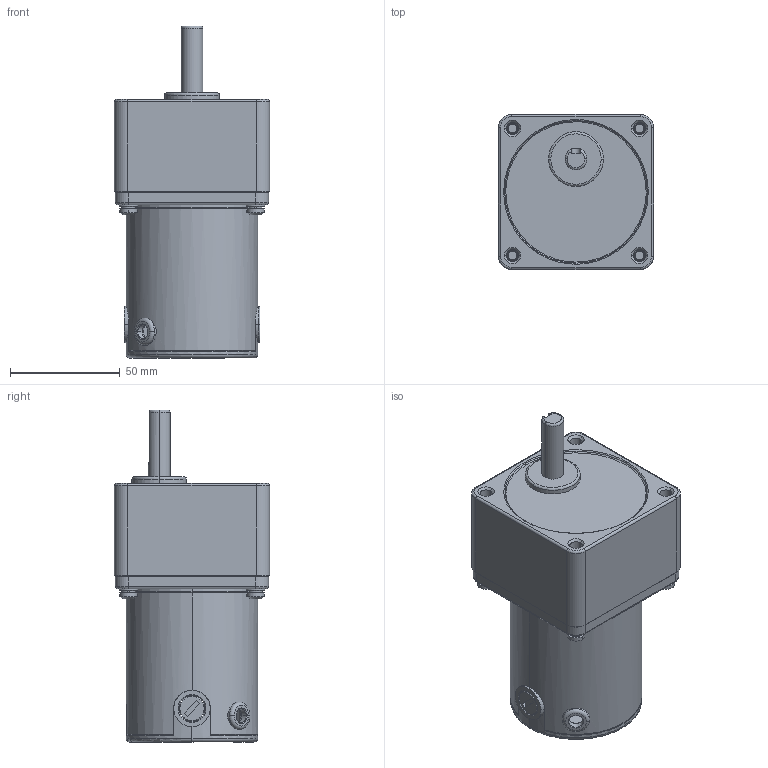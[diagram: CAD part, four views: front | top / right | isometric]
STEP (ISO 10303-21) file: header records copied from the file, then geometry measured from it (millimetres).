
FILE_DESCRIPTION (( 'STEP AP203' ), '1' );
FILE_NAME ('70 65儂褲俋离.STEP', '2021-07-17T00:28:43', ( '' ), ( '' ), 'SwSTEP 2.0', 'SolidWorks 2019', '' );
FILE_SCHEMA (( 'CONFIG_CONTROL_DESIGN' ));
Length unit declared in the file: millimetre
Products named in the file (14): L-70-11; J-70; Q-70; 蚾饜极75^70 65儂褲俋离; 70喘謫眊_1; T-70; 70-H; 蚾饜极73^70 65儂褲俋离; P-70; 蚾饜极72^70 65儂褲俋离; 70 65儂褲俋离; 蚾饜极74^70 65儂褲俋离; 装配体76^装配体72_70 65机壳外置; L-70
Assembly tree (23 placements, depth 4):
  70 65儂褲俋离
    蚾饜极73^70 65儂褲俋离
      T-70
      P-70
      L-70-11
    蚾饜极72^70 65儂褲俋离
      装配体76^装配体72_70 65机壳外置
        T-70
        P-70
        L-70-11
    蚾饜极75^70 65儂褲俋离
      P-70
      L-70-11
      T-70
    蚾饜极74^70 65儂褲俋离
      P-70
      L-70-11
      T-70
    L-70  x2
    J-70
    Q-70
    70-H
    70喘謫眊_1
Bounding box: 70.8 x 70.8 x 151.5 mm (x, y, z)
Volume: 273743.8 mm3; surface area: 76352 mm2
Topology: 21 solids, 21 shells, 528 faces, 1274 edges, 795 vertices
Faces by surface type: cylinder 179, plane 166, cone 148, bspline 25, torus 10
Entity records: 12399 total; most frequent: CARTESIAN_POINT 3091, DIRECTION 1682, ORIENTED_EDGE 1524, EDGE_CURVE 762, AXIS2_PLACEMENT_3D 673, VERTEX_POINT 484, EDGE_LOOP 360, CIRCLE 344
